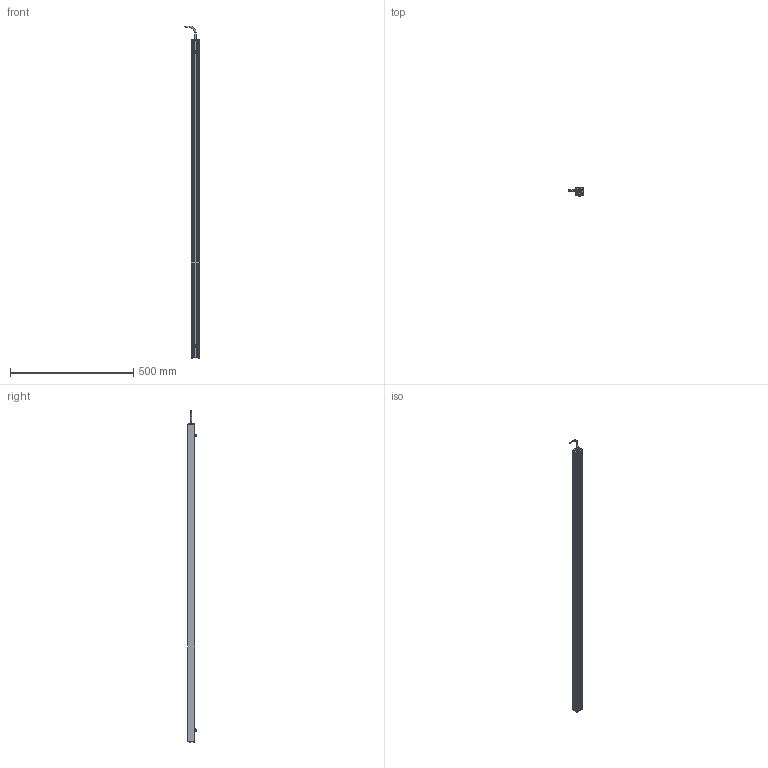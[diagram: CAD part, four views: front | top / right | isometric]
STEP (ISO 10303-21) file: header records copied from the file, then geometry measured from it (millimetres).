
FILE_DESCRIPTION (( 'STEP AP214' ), '1' );
FILE_NAME ('AL150XXXX_AL150294.stp', '2021-04-29T15:41:38', ( '' ), ( '' ), 'SwSTEP 2.0', 'SolidWorks 2018', '' );
FILE_SCHEMA (( 'AUTOMOTIVE_DESIGN' ));
Length unit declared in the file: inch
Products named in the file (12): 093145_93701A253; 116-02-007; 150-03-006-XXXX_150-03-006-294; 1157 (no strap); 116-02-006; CHM6x8_91460A312; 092408_TRUNCATED; 150-01-005-XXX_150-01-005-294; AL150XXXX_AL150294; Part1^AL150XXXX; Part2^AL150XXXX; HN-M6_90592A016
Assembly tree (18 placements, depth 2):
  AL150XXXX_AL150294
    150-01-005-XXX_150-01-005-294
    116-02-006
    093145_93701A253  x8
    HN-M6_90592A016  x2
    CHM6x8_91460A312  x2
    150-03-006-XXXX_150-03-006-294
    116-02-007
    1157 (no strap)
    092408_TRUNCATED
  Part1^AL150XXXX
  Part2^AL150XXXX
Bounding box: 60.68 x 33.84 x 1345.36 mm (x, y, z)
Volume: 400285.2 mm3; surface area: 423816.4 mm2
Topology: 26 solids, 26 shells, 1306 faces, 3436 edges, 2127 vertices
Faces by surface type: cylinder 805, cone 249, plane 153, torus 59, bspline 32, sphere 8
Entity records: 18285 total; most frequent: CARTESIAN_POINT 6069, ORIENTED_EDGE 2496, DIRECTION 2311, EDGE_CURVE 1248, AXIS2_PLACEMENT_3D 881, VERTEX_POINT 800, LINE 549, VECTOR 549
